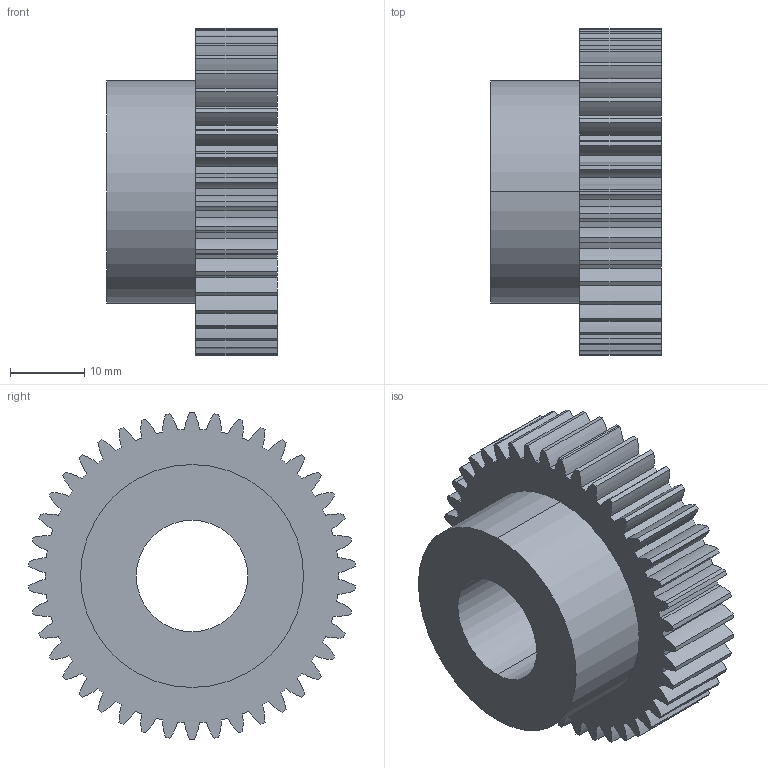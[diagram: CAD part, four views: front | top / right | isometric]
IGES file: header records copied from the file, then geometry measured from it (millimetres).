
Start section: 3D InterOp IGES (v. 2020 1.0.1), Spatial Corp. Copyright (c) 1999-2017.
Global section: file name: p10_w11_t42_b.igs; native system: Spatial Corp.; preprocessor: 3D InterOp ACIS/IGES; author: TraceParts; organization: TraceParts S.A.; date: 20220624.033332; units: millimetre
Bounding box: 23 x 43.92 x 44 mm (x, y, z)
Surface area: 7500.1 mm2 (no closed solid volume)
Topology: 0 solids, 0 shells, 185 faces, 1092 edges, 1092 vertices
Faces by surface type: revolution 182, extrusion 3
